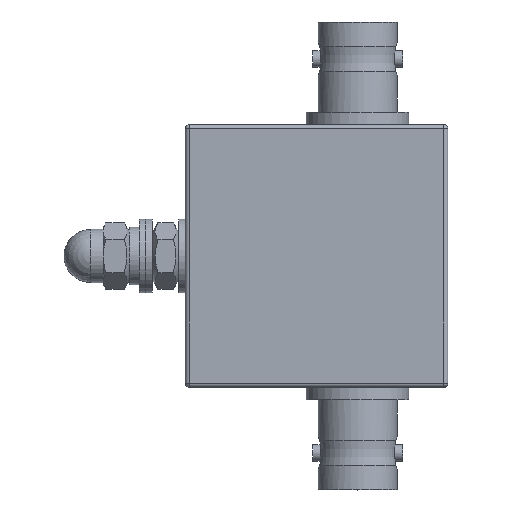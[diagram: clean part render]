
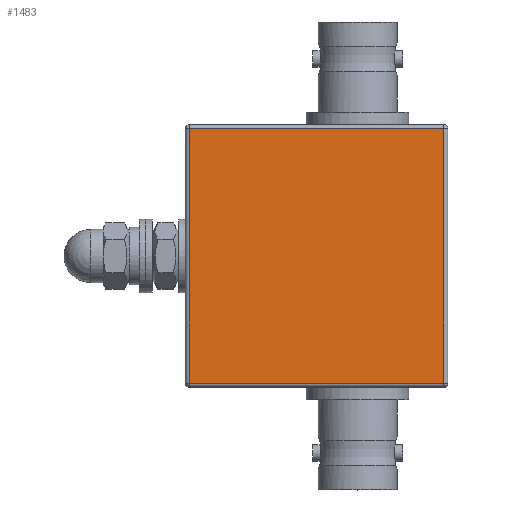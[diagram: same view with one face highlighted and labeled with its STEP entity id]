
A CAD part, top view. The second image highlights one B-rep face of the part: STEP entity #1483.
In plain terms, the highlighted planar face has unit normal (0, 0, 1).
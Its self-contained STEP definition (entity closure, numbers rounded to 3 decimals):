
#152=PLANE('',#1757);
#200=LINE('',#2480,#278);
#204=LINE('',#2493,#282);
#206=LINE('',#2496,#284);
#208=LINE('',#2499,#286);
#278=VECTOR('',#1993,10.);
#282=VECTOR('',#2009,10.);
#284=VECTOR('',#2013,10.);
#286=VECTOR('',#2017,10.);
#407=FACE_OUTER_BOUND('',#513,.T.);
#513=EDGE_LOOP('',(#1113,#1114,#1115,#1116));
#702=VERTEX_POINT('',#2437);
#711=VERTEX_POINT('',#2461);
#714=VERTEX_POINT('',#2471);
#717=VERTEX_POINT('',#2484);
#849=EDGE_CURVE('',#702,#714,#200,.T.);
#856=EDGE_CURVE('',#714,#717,#204,.T.);
#858=EDGE_CURVE('',#717,#711,#206,.T.);
#860=EDGE_CURVE('',#711,#702,#208,.T.);
#1113=ORIENTED_EDGE('',*,*,#849,.F.);
#1114=ORIENTED_EDGE('',*,*,#860,.F.);
#1115=ORIENTED_EDGE('',*,*,#858,.F.);
#1116=ORIENTED_EDGE('',*,*,#856,.F.);
#1483=ADVANCED_FACE('',(#407),#152,.T.);
#1757=AXIS2_PLACEMENT_3D('',#2517,#2041,#2042);
#1993=DIRECTION('',(0.,1.,0.));
#2009=DIRECTION('',(1.,0.,0.));
#2013=DIRECTION('',(0.,-1.,0.));
#2017=DIRECTION('',(-1.,0.,0.));
#2041=DIRECTION('center_axis',(0.,0.,1.));
#2042=DIRECTION('ref_axis',(1.,0.,0.));
#2437=CARTESIAN_POINT('',(-15.5,-15.5,8.25));
#2461=CARTESIAN_POINT('',(15.5,-15.5,8.25));
#2471=CARTESIAN_POINT('',(-15.5,15.5,8.25));
#2480=CARTESIAN_POINT('',(-15.5,8.,8.25));
#2484=CARTESIAN_POINT('',(15.5,15.5,8.25));
#2493=CARTESIAN_POINT('',(8.,15.5,8.25));
#2496=CARTESIAN_POINT('',(15.5,-8.,8.25));
#2499=CARTESIAN_POINT('',(-8.,-15.5,8.25));
#2517=CARTESIAN_POINT('Origin',(0.,0.,8.25));
